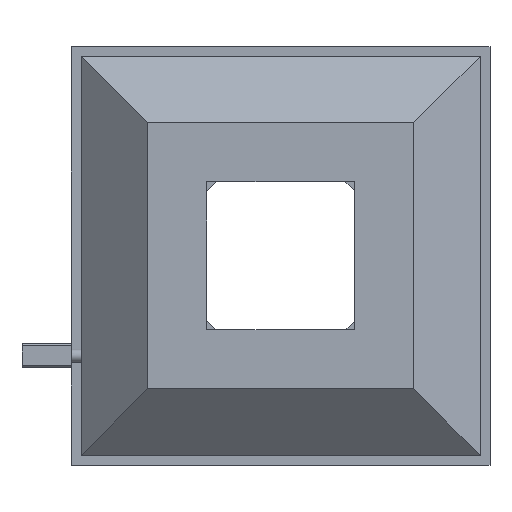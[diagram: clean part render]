
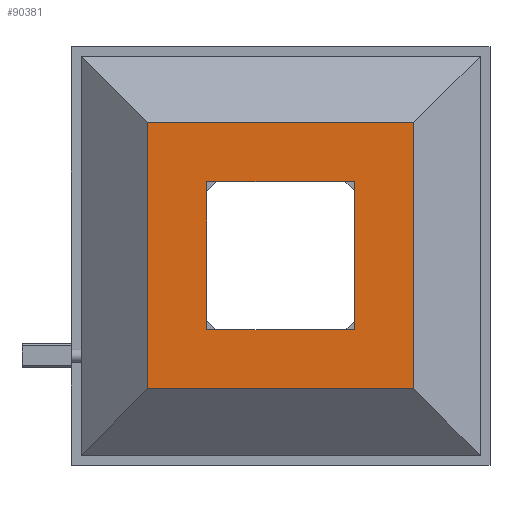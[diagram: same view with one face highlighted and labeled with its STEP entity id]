
A CAD part, top view. The second image highlights one B-rep face of the part: STEP entity #90381.
In plain terms, the highlighted planar face has unit normal (0, 0, 1).
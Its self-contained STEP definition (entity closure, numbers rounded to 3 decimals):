
#260=FACE_BOUND('',#16214,.T.);
#7891=PLANE('',#94479);
#11927=FACE_OUTER_BOUND('',#16213,.T.);
#16213=EDGE_LOOP('',(#79189,#79190,#79191,#79192));
#16214=EDGE_LOOP('',(#79193,#79194,#79195,#79196));
#29936=LINE('',#138655,#41968);
#29937=LINE('',#138657,#41969);
#29938=LINE('',#138659,#41970);
#29939=LINE('',#138660,#41971);
#29940=LINE('',#138663,#41972);
#29941=LINE('',#138665,#41973);
#29942=LINE('',#138667,#41974);
#29943=LINE('',#138668,#41975);
#41968=VECTOR('',#114504,10.);
#41969=VECTOR('',#114505,10.);
#41970=VECTOR('',#114506,10.);
#41971=VECTOR('',#114507,10.);
#41972=VECTOR('',#114508,10.);
#41973=VECTOR('',#114509,10.);
#41974=VECTOR('',#114510,10.);
#41975=VECTOR('',#114511,10.);
#50078=VERTEX_POINT('',#138653);
#50079=VERTEX_POINT('',#138654);
#50080=VERTEX_POINT('',#138656);
#50081=VERTEX_POINT('',#138658);
#50082=VERTEX_POINT('',#138661);
#50083=VERTEX_POINT('',#138662);
#50084=VERTEX_POINT('',#138664);
#50085=VERTEX_POINT('',#138666);
#62102=EDGE_CURVE('',#50078,#50079,#29936,.T.);
#62103=EDGE_CURVE('',#50080,#50078,#29937,.T.);
#62104=EDGE_CURVE('',#50081,#50080,#29938,.T.);
#62105=EDGE_CURVE('',#50079,#50081,#29939,.T.);
#62106=EDGE_CURVE('',#50082,#50083,#29940,.T.);
#62107=EDGE_CURVE('',#50083,#50084,#29941,.T.);
#62108=EDGE_CURVE('',#50084,#50085,#29942,.T.);
#62109=EDGE_CURVE('',#50085,#50082,#29943,.T.);
#79189=ORIENTED_EDGE('',*,*,#62102,.F.);
#79190=ORIENTED_EDGE('',*,*,#62103,.F.);
#79191=ORIENTED_EDGE('',*,*,#62104,.F.);
#79192=ORIENTED_EDGE('',*,*,#62105,.F.);
#79193=ORIENTED_EDGE('',*,*,#62106,.T.);
#79194=ORIENTED_EDGE('',*,*,#62107,.T.);
#79195=ORIENTED_EDGE('',*,*,#62108,.T.);
#79196=ORIENTED_EDGE('',*,*,#62109,.T.);
#90381=ADVANCED_FACE('',(#11927,#260),#7891,.T.);
#94479=AXIS2_PLACEMENT_3D('',#138652,#114502,#114503);
#114502=DIRECTION('center_axis',(0.,0.,
1.));
#114503=DIRECTION('ref_axis',(1.,0.,0.));
#114504=DIRECTION('',(1.,0.,0.));
#114505=DIRECTION('',(0.,1.,0.));
#114506=DIRECTION('',(-1.,0.,0.));
#114507=DIRECTION('',(0.,-1.,0.));
#114508=DIRECTION('',(0.,1.,0.));
#114509=DIRECTION('',(1.,0.,0.));
#114510=DIRECTION('',(0.,-1.,0.));
#114511=DIRECTION('',(-1.,0.,0.));
#138652=CARTESIAN_POINT('Origin',(0.,0.,198.));
#138653=CARTESIAN_POINT('',(-135.,135.,198.));
#138654=CARTESIAN_POINT('',(135.,135.,198.));
#138655=CARTESIAN_POINT('',(-135.,135.,198.));
#138656=CARTESIAN_POINT('',(-135.,-135.,198.));
#138657=CARTESIAN_POINT('',(-135.,-135.,198.));
#138658=CARTESIAN_POINT('',(135.,-135.,198.));
#138659=CARTESIAN_POINT('',(135.,-135.,198.));
#138660=CARTESIAN_POINT('',(135.,135.,198.));
#138661=CARTESIAN_POINT('',(-75.,-75.,198.));
#138662=CARTESIAN_POINT('',(-75.,75.,198.));
#138663=CARTESIAN_POINT('',(-75.,-37.5,198.));
#138664=CARTESIAN_POINT('',(75.,75.,198.));
#138665=CARTESIAN_POINT('',(-37.5,75.,198.));
#138666=CARTESIAN_POINT('',(75.,-75.,198.));
#138667=CARTESIAN_POINT('',(75.,37.5,198.));
#138668=CARTESIAN_POINT('',(37.5,-75.,198.));
